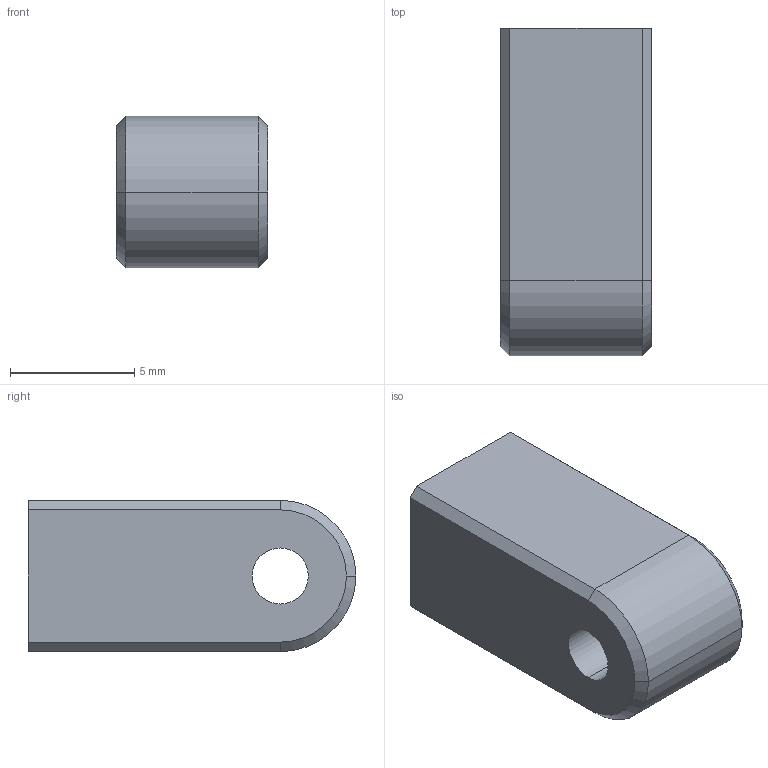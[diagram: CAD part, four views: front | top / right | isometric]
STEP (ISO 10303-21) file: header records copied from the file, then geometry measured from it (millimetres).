
FILE_DESCRIPTION (( 'STEP AP214' ), '1' );
FILE_NAME ('CLIP-20080.STEP', '2023-05-14T13:42:06', ( '' ), ( '' ), 'SwSTEP 2.0', 'SolidWorks 2021', '' );
FILE_SCHEMA (( 'AUTOMOTIVE_DESIGN' ));
Length unit declared in the file: inch
Products named in the file (1): CLIP-20080
Bounding box: 6.1 x 13.21 x 6.1 mm (x, y, z)
Volume: 392.4 mm3; surface area: 459.6 mm2
Topology: 1 solids, 1 shells, 21 faces, 49 edges, 29 vertices
Faces by surface type: plane 9, cylinder 6, cone 6
Entity records: 677 total; most frequent: DIRECTION 107, CARTESIAN_POINT 98, ORIENTED_EDGE 94, EDGE_CURVE 47, AXIS2_PLACEMENT_3D 38, LINE 31, VECTOR 31, VERTEX_POINT 29
